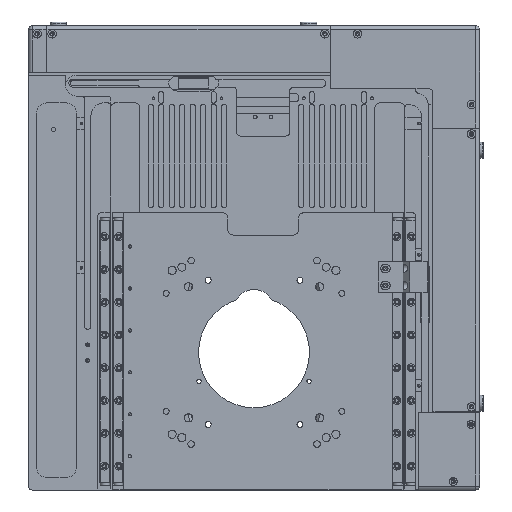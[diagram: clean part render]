
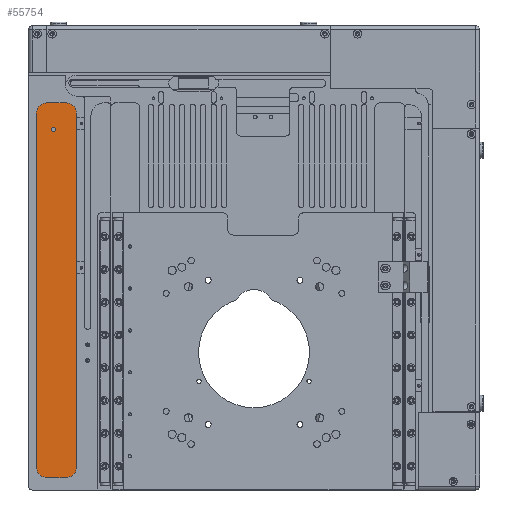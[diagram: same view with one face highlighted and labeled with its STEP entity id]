
A CAD part, front view. The second image highlights one B-rep face of the part: STEP entity #55754.
In plain terms, the highlighted planar face has unit normal (0, -1, 0).
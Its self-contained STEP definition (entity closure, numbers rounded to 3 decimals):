
#321 = CARTESIAN_POINT ( 'NONE',  ( 143.4, 8., 112.5 ) ) ;
#643 = ORIENTED_EDGE ( 'NONE', *, *, #12940, .T. ) ;
#928 = EDGE_LOOP ( 'NONE', ( #22125, #49144 ) ) ;
#1270 = EDGE_CURVE ( 'NONE', #15200, #57868, #34694, .T. ) ;
#1504 = CIRCLE ( 'NONE', #34879, 8. ) ;
#3093 = EDGE_CURVE ( 'NONE', #13540, #27525, #1504, .T. ) ;
#3753 = LINE ( 'NONE', #50002, #38943 ) ;
#3900 = CARTESIAN_POINT ( 'NONE',  ( 158., 8., -173.3 ) ) ;
#4149 = AXIS2_PLACEMENT_3D ( 'NONE', #25130, #19457, #24819 ) ;
#5044 = DIRECTION ( 'NONE',  ( 0., -1., 0. ) ) ;
#5127 = AXIS2_PLACEMENT_3D ( 'NONE', #7452, #25642, #16964 ) ;
#5791 = EDGE_CURVE ( 'NONE', #45991, #16920, #45528, .T. ) ;
#5799 = CIRCLE ( 'NONE', #15320, 8. ) ;
#5816 = DIRECTION ( 'NONE',  ( 0., -1., 0. ) ) ;
#5949 = CARTESIAN_POINT ( 'NONE',  ( 143.4, 8., -173.3 ) ) ;
#7452 = CARTESIAN_POINT ( 'NONE',  ( 158., 8., -165.3 ) ) ;
#9899 = DIRECTION ( 'NONE',  ( 1., 0., 0. ) ) ;
#10463 = DIRECTION ( 'NONE',  ( 0., -1., 0. ) ) ;
#10765 = DIRECTION ( 'NONE',  ( 0., -1., 0. ) ) ;
#12940 = EDGE_CURVE ( 'NONE', #27783, #54801, #5799, .T. ) ;
#13376 = AXIS2_PLACEMENT_3D ( 'NONE', #37058, #10765, #9899 ) ;
#13400 = CARTESIAN_POINT ( 'NONE',  ( 143.4, 8., -165.3 ) ) ;
#13540 = VERTEX_POINT ( 'NONE', #26500 ) ;
#15060 = EDGE_CURVE ( 'NONE', #33121, #13540, #56148, .T. ) ;
#15200 = VERTEX_POINT ( 'NONE', #3900 ) ;
#15247 = CARTESIAN_POINT ( 'NONE',  ( 135.4, 8., -165.3 ) ) ;
#15320 = AXIS2_PLACEMENT_3D ( 'NONE', #19420, #10463, #28661 ) ;
#16404 = LINE ( 'NONE', #34934, #34525 ) ;
#16920 = VERTEX_POINT ( 'NONE', #35786 ) ;
#16964 = DIRECTION ( 'NONE',  ( 1., 0., 0. ) ) ;
#17522 = ORIENTED_EDGE ( 'NONE', *, *, #15060, .T. ) ;
#19420 = CARTESIAN_POINT ( 'NONE',  ( 158., 8., 104.5 ) ) ;
#19457 = DIRECTION ( 'NONE',  ( 0., 1., 0. ) ) ;
#19920 = CARTESIAN_POINT ( 'NONE',  ( 153., 8., -154.65 ) ) ;
#22125 = ORIENTED_EDGE ( 'NONE', *, *, #5791, .T. ) ;
#22859 = EDGE_CURVE ( 'NONE', #54801, #56412, #48000, .T. ) ;
#23036 = ORIENTED_EDGE ( 'NONE', *, *, #32317, .T. ) ;
#23145 = FACE_BOUND ( 'NONE', #928, .T. ) ;
#23447 = FACE_OUTER_BOUND ( 'NONE', #36507, .T. ) ;
#24819 = DIRECTION ( 'NONE',  ( 1., 0., 0. ) ) ;
#25008 = CARTESIAN_POINT ( 'NONE',  ( 158., 8., 112.5 ) ) ;
#25130 = CARTESIAN_POINT ( 'NONE',  ( 153., 8., -153. ) ) ;
#25642 = DIRECTION ( 'NONE',  ( 0., -1., 0. ) ) ;
#26500 = CARTESIAN_POINT ( 'NONE',  ( 135.4, 8., -165.3 ) ) ;
#26664 = EDGE_CURVE ( 'NONE', #57868, #27783, #16404, .T. ) ;
#27404 = AXIS2_PLACEMENT_3D ( 'NONE', #56665, #34576, #51896 ) ;
#27525 = VERTEX_POINT ( 'NONE', #5949 ) ;
#27624 = DIRECTION ( 'NONE',  ( 1., 0., 0. ) ) ;
#27783 = VERTEX_POINT ( 'NONE', #29793 ) ;
#28661 = DIRECTION ( 'NONE',  ( 1., 0., 0. ) ) ;
#29501 = VECTOR ( 'NONE', #34252, 1000. ) ;
#29793 = CARTESIAN_POINT ( 'NONE',  ( 166., 8., 104.5 ) ) ;
#32317 = EDGE_CURVE ( 'NONE', #56412, #33121, #49592, .T. ) ;
#32381 = PLANE ( 'NONE',  #58391 ) ;
#33121 = VERTEX_POINT ( 'NONE', #38019 ) ;
#34252 = DIRECTION ( 'NONE',  ( -1., 0., 0. ) ) ;
#34525 = VECTOR ( 'NONE', #48374, 1000. ) ;
#34576 = DIRECTION ( 'NONE',  ( 0., 1., 0. ) ) ;
#34694 = CIRCLE ( 'NONE', #5127, 8. ) ;
#34879 = AXIS2_PLACEMENT_3D ( 'NONE', #13400, #5044, #54895 ) ;
#34934 = CARTESIAN_POINT ( 'NONE',  ( 166., 8., -165.3 ) ) ;
#35786 = CARTESIAN_POINT ( 'NONE',  ( 153., 8., -151.35 ) ) ;
#35931 = CARTESIAN_POINT ( 'NONE',  ( 158., 8., 112.5 ) ) ;
#36507 = EDGE_LOOP ( 'NONE', ( #643, #44382, #23036, #17522, #58797, #38823, #45557, #47081 ) ) ;
#37058 = CARTESIAN_POINT ( 'NONE',  ( 143.4, 8., 104.5 ) ) ;
#38019 = CARTESIAN_POINT ( 'NONE',  ( 135.4, 8., 104.5 ) ) ;
#38823 = ORIENTED_EDGE ( 'NONE', *, *, #53327, .T. ) ;
#38943 = VECTOR ( 'NONE', #58357, 1000. ) ;
#42166 = CARTESIAN_POINT ( 'NONE',  ( 166., 8., -165.3 ) ) ;
#44382 = ORIENTED_EDGE ( 'NONE', *, *, #22859, .T. ) ;
#45528 = CIRCLE ( 'NONE', #27404, 1.65 ) ;
#45557 = ORIENTED_EDGE ( 'NONE', *, *, #1270, .T. ) ;
#45991 = VERTEX_POINT ( 'NONE', #19920 ) ;
#46708 = CARTESIAN_POINT ( 'NONE',  ( 158., 8., 104.5 ) ) ;
#47081 = ORIENTED_EDGE ( 'NONE', *, *, #26664, .T. ) ;
#48000 = LINE ( 'NONE', #25008, #29501 ) ;
#48374 = DIRECTION ( 'NONE',  ( 0., 0., 1. ) ) ;
#49144 = ORIENTED_EDGE ( 'NONE', *, *, #56110, .T. ) ;
#49592 = CIRCLE ( 'NONE', #13376, 8. ) ;
#49891 = VECTOR ( 'NONE', #53153, 1000. ) ;
#50002 = CARTESIAN_POINT ( 'NONE',  ( 158., 8., -173.3 ) ) ;
#51896 = DIRECTION ( 'NONE',  ( 1., 0., 0. ) ) ;
#53153 = DIRECTION ( 'NONE',  ( 0., 0., -1. ) ) ;
#53327 = EDGE_CURVE ( 'NONE', #27525, #15200, #3753, .T. ) ;
#54801 = VERTEX_POINT ( 'NONE', #35931 ) ;
#54895 = DIRECTION ( 'NONE',  ( -1., 0., 0. ) ) ;
#55754 = ADVANCED_FACE ( 'NONE', ( #23447, #23145 ), #32381, .T. ) ;
#56110 = EDGE_CURVE ( 'NONE', #16920, #45991, #56507, .T. ) ;
#56148 = LINE ( 'NONE', #15247, #49891 ) ;
#56412 = VERTEX_POINT ( 'NONE', #321 ) ;
#56507 = CIRCLE ( 'NONE', #4149, 1.65 ) ;
#56665 = CARTESIAN_POINT ( 'NONE',  ( 153., 8., -153. ) ) ;
#57868 = VERTEX_POINT ( 'NONE', #42166 ) ;
#58357 = DIRECTION ( 'NONE',  ( 1., 0., 0. ) ) ;
#58391 = AXIS2_PLACEMENT_3D ( 'NONE', #46708, #5816, #27624 ) ;
#58797 = ORIENTED_EDGE ( 'NONE', *, *, #3093, .T. ) ;
